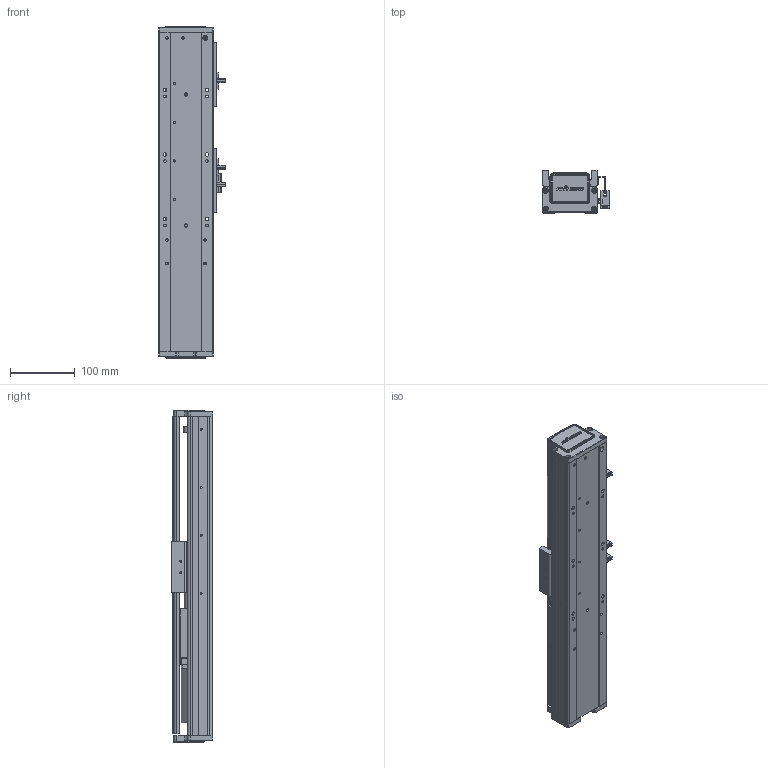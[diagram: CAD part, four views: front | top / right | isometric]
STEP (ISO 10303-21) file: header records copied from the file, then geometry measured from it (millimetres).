
FILE_DESCRIPTION (( 'STEP AP203' ), '1' );
FILE_NAME ('RY80-L1620-300-IK.SLDASM_150.step', '2021-02-22T05:28:35', ( '盈信电脑' ), ( '东莞市道滘镇水果街19号' ), 'SwSTEP 2.0', 'SolidWorks 2012', '' );
FILE_SCHEMA (( 'CONFIG_CONTROL_DESIGN' ));
Products named in the file (14): RY80-L1620-300-IK.SLDASM_150; 滅袉蝶18-24; RY80囀离ヶ啣; RY80囀离萇儂啣; 侂狟100W; 覜茼ん672; RY80俋离覜茼え; RY80綴裔啣; RY80萇儂傷盓傅釱; 672嫖萇羲壽假蚾釱; 滅袉蝶18-10; RY80-300倰第菁釱-IK_150; RY80臏賑輸; RY80-300倰第奻裔啣-IK_150
Assembly tree (16 placements, depth 2):
  RY80-L1620-300-IK.SLDASM_150
    RY80-300倰第菁釱-IK_150
    RY80臏賑輸
    RY80-300倰第奻裔啣-IK_150
    RY80萇儂傷盓傅釱
    RY80綴裔啣
    滅袉蝶18-10
    672嫖萇羲壽假蚾釱  x2
    覜茼ん672  x3
    RY80俋离覜茼え
    侂狟100W
    RY80囀离萇儂啣
    RY80囀离ヶ啣
    滅袉蝶18-24
Bounding box: 103.7 x 65 x 514 mm (x, y, z)
Volume: 1085642.8 mm3; surface area: 431275.3 mm2
Topology: 16 solids, 16 shells, 1929 faces, 5312 edges, 3463 vertices
Faces by surface type: plane 1242, cylinder 553, cone 90, bspline 44
Entity records: 59205 total; most frequent: CARTESIAN_POINT 13965, ORIENTED_EDGE 9344, DIRECTION 8571, EDGE_CURVE 4672, VECTOR 3301, LINE 3301, VERTEX_POINT 3079, AXIS2_PLACEMENT_3D 2635
